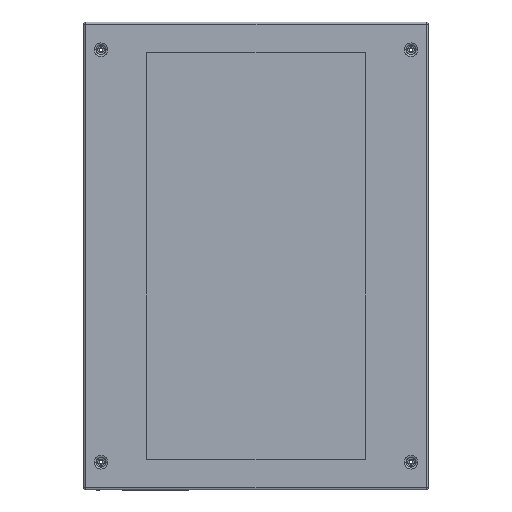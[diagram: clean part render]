
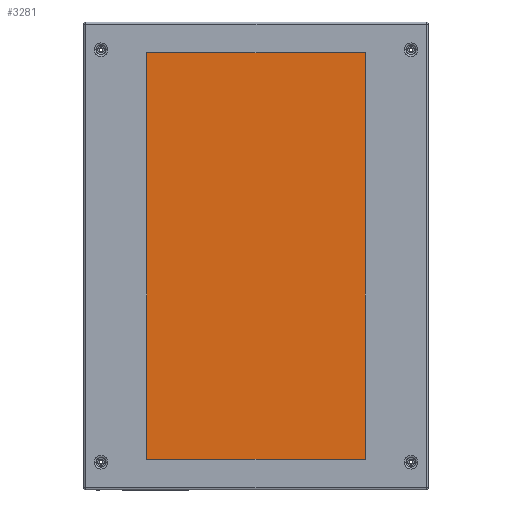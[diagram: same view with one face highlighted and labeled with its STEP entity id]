
A CAD part, top view. The second image highlights one B-rep face of the part: STEP entity #3281.
In plain terms, the highlighted planar face has unit normal (0, 0, 1).
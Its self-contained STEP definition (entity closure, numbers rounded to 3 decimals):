
#401 = VECTOR ( 'NONE', #3849, 1000. ) ;
#402 = VECTOR ( 'NONE', #3837, 1000. ) ;
#403 = VECTOR ( 'NONE', #3843, 1000. ) ;
#404 = VECTOR ( 'NONE', #3858, 1000. ) ;
#673 = AXIS2_PLACEMENT_3D ( 'NONE', #2178, #2177, #2176 ) ;
#720 = FACE_OUTER_BOUND ( 'NONE', #4361, .T. ) ;
#1581 = EDGE_CURVE ( 'NONE', #1936, #1941, #3860, .T. ) ;
#1584 = EDGE_CURVE ( 'NONE', #1934, #1936, #3851, .T. ) ;
#1586 = EDGE_CURVE ( 'NONE', #1822, #1934, #3845, .T. ) ;
#1588 = EDGE_CURVE ( 'NONE', #1941, #1822, #3839, .T. ) ;
#1822 = VERTEX_POINT ( 'NONE', #2869 ) ;
#1934 = VERTEX_POINT ( 'NONE', #2757 ) ;
#1936 = VERTEX_POINT ( 'NONE', #2755 ) ;
#1941 = VERTEX_POINT ( 'NONE', #2750 ) ;
#2176 = DIRECTION ( 'NONE',  ( -1., 0., 0. ) ) ;
#2177 = DIRECTION ( 'NONE',  ( 0., 0., -1. ) ) ;
#2178 = CARTESIAN_POINT ( 'NONE',  ( 0., 0., -2. ) ) ;
#2179 = PLANE ( 'NONE',  #673 ) ;
#2750 = CARTESIAN_POINT ( 'NONE',  ( -185., 344.5, -2. ) ) ;
#2755 = CARTESIAN_POINT ( 'NONE',  ( -185., -344.5, -2. ) ) ;
#2757 = CARTESIAN_POINT ( 'NONE',  ( 185., -344.5, -2. ) ) ;
#2869 = CARTESIAN_POINT ( 'NONE',  ( 185., 344.5, -2. ) ) ;
#3281 = ADVANCED_FACE ( 'NONE', ( #720 ), #2179, .F. ) ;
#3837 = DIRECTION ( 'NONE',  ( 1., 0., 0. ) ) ;
#3838 = CARTESIAN_POINT ( 'NONE',  ( 185., 344.5, -2. ) ) ;
#3839 = LINE ( 'NONE', #3838, #402 ) ;
#3843 = DIRECTION ( 'NONE',  ( 0., -1., 0. ) ) ;
#3844 = CARTESIAN_POINT ( 'NONE',  ( 185., 344.5, -2. ) ) ;
#3845 = LINE ( 'NONE', #3844, #403 ) ;
#3849 = DIRECTION ( 'NONE',  ( -1., 0., 0. ) ) ;
#3850 = CARTESIAN_POINT ( 'NONE',  ( 185., -344.5, -2. ) ) ;
#3851 = LINE ( 'NONE', #3850, #401 ) ;
#3858 = DIRECTION ( 'NONE',  ( 0., 1., 0. ) ) ;
#3859 = CARTESIAN_POINT ( 'NONE',  ( -185., 344.5, -2. ) ) ;
#3860 = LINE ( 'NONE', #3859, #404 ) ;
#4092 = ORIENTED_EDGE ( 'NONE', *, *, #1586, .F. ) ;
#4094 = ORIENTED_EDGE ( 'NONE', *, *, #1588, .F. ) ;
#4095 = ORIENTED_EDGE ( 'NONE', *, *, #1581, .F. ) ;
#4096 = ORIENTED_EDGE ( 'NONE', *, *, #1584, .F. ) ;
#4361 = EDGE_LOOP ( 'NONE', ( #4094, #4095, #4096, #4092 ) ) ;
